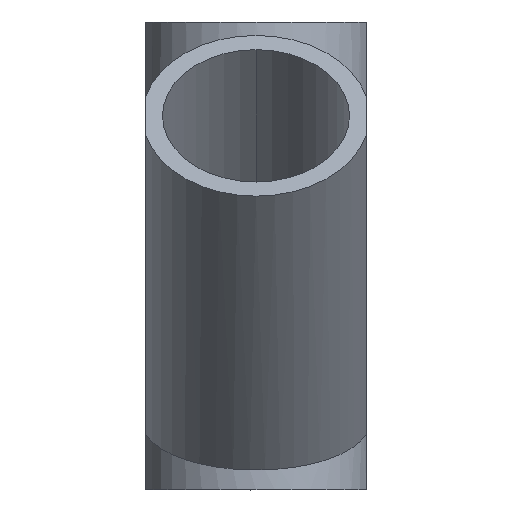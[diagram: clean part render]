
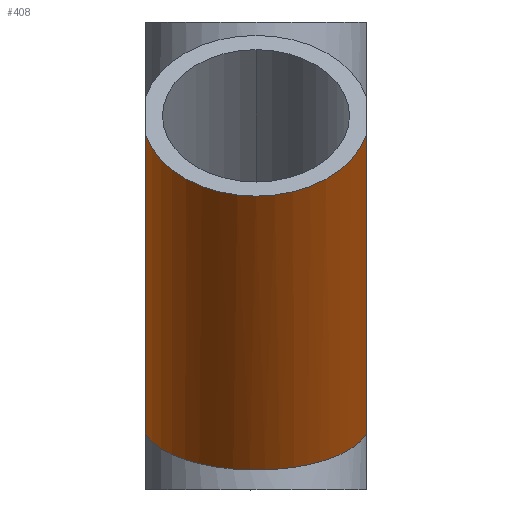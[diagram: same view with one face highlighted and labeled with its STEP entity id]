
A CAD part, front view. The second image highlights one B-rep face of the part: STEP entity #408.
In plain terms, the highlighted cylindrical face has radius 17 mm (diameter 34 mm), a partial arc.
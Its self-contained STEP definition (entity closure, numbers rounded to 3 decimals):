
#7 = EDGE_CURVE ( 'NONE', #759, #137, #484, .T. ) ;
#12 = DIRECTION ( 'NONE',  ( 0., 0.707, 0.707 ) ) ;
#26 = EDGE_CURVE ( 'NONE', #137, #202, #673, .T. ) ;
#37 = CARTESIAN_POINT ( 'NONE',  ( -16.5, -4.093, -1.695 ) ) ;
#41 = AXIS2_PLACEMENT_3D ( 'NONE', #800, #304, #570 ) ;
#57 = AXIS2_PLACEMENT_3D ( 'NONE', #358, #544, #12 ) ;
#97 = DIRECTION ( 'NONE',  ( 0., 0.707, -0.707 ) ) ;
#100 = VERTEX_POINT ( 'NONE', #418 ) ;
#109 = EDGE_CURVE ( 'NONE', #100, #202, #394, .T. ) ;
#137 = VERTEX_POINT ( 'NONE', #546 ) ;
#165 = ORIENTED_EDGE ( 'NONE', *, *, #7, .T. ) ;
#171 = FACE_OUTER_BOUND ( 'NONE', #531, .T. ) ;
#185 = ORIENTED_EDGE ( 'NONE', *, *, #109, .F. ) ;
#202 = VERTEX_POINT ( 'NONE', #704 ) ;
#232 = CARTESIAN_POINT ( 'NONE',  ( -11.137, -25.712, -10.65 ) ) ;
#292 = CARTESIAN_POINT ( 'NONE',  ( 16.5, -4.093, -1.695 ) ) ;
#294 = LINE ( 'NONE', #609, #548 ) ;
#295 = CYLINDRICAL_SURFACE ( 'NONE', #57, 17. ) ;
#304 = DIRECTION ( 'NONE',  ( 0., -0.707, 0.707 ) ) ;
#358 = CARTESIAN_POINT ( 'NONE',  ( 0., -45.962, 45.962 ) ) ;
#385 = ORIENTED_EDGE ( 'NONE', *, *, #700, .T. ) ;
#394 = CIRCLE ( 'NONE', #41, 17. ) ;
#408 = ADVANCED_FACE ( 'NONE', ( #171 ), #295, .T. ) ;
#418 = CARTESIAN_POINT ( 'NONE',  ( -16.5, -48.856, 43.068 ) ) ;
#428 = CARTESIAN_POINT ( 'NONE',  ( 11.137, -25.712, -10.65 ) ) ;
#430 = VECTOR ( 'NONE', #741, 1000. ) ;
#477 = ORIENTED_EDGE ( 'NONE', *, *, #26, .T. ) ;
#484 =( BOUNDED_CURVE ( )  B_SPLINE_CURVE ( 3, ( #37, #232, #428, #292 ),
 .UNSPECIFIED., .F., .F. ) 
 B_SPLINE_CURVE_WITH_KNOTS ( ( 4, 4 ),
 ( 4.956, 7.611 ),
 .UNSPECIFIED. ) 
 CURVE ( )  GEOMETRIC_REPRESENTATION_ITEM ( )  RATIONAL_B_SPLINE_CURVE ( ( 1., 0.494, 0.494, 1. ) ) 
 REPRESENTATION_ITEM ( '' )  );
#531 = EDGE_LOOP ( 'NONE', ( #477, #185, #385, #165 ) ) ;
#544 = DIRECTION ( 'NONE',  ( 0., 0.707, -0.707 ) ) ;
#546 = CARTESIAN_POINT ( 'NONE',  ( 16.5, -4.093, -1.695 ) ) ;
#548 = VECTOR ( 'NONE', #97, 1000. ) ;
#570 = DIRECTION ( 'NONE',  ( 0., -0.707, -0.707 ) ) ;
#609 = CARTESIAN_POINT ( 'NONE',  ( -16.5, -48.856, 43.068 ) ) ;
#673 = LINE ( 'NONE', #684, #430 ) ;
#684 = CARTESIAN_POINT ( 'NONE',  ( 16.5, -48.856, 43.068 ) ) ;
#700 = EDGE_CURVE ( 'NONE', #100, #759, #294, .T. ) ;
#704 = CARTESIAN_POINT ( 'NONE',  ( 16.5, -48.856, 43.068 ) ) ;
#727 = CARTESIAN_POINT ( 'NONE',  ( -16.5, -4.093, -1.695 ) ) ;
#741 = DIRECTION ( 'NONE',  ( 0., -0.707, 0.707 ) ) ;
#759 = VERTEX_POINT ( 'NONE', #727 ) ;
#800 = CARTESIAN_POINT ( 'NONE',  ( 0., -45.962, 45.962 ) ) ;
